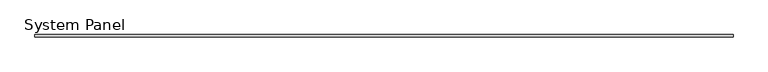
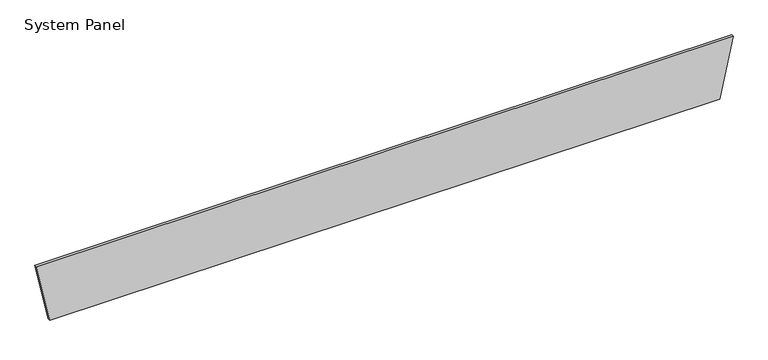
"""IFC4 building model written with IfcOpenShell, lengths in millimetres: plate geometry, System Panel : Equitilt_50mm_Plain_Surfmist."""

from ifc_helpers import new_model, si_unit, frame, origin, place, context, project, spatial, polyline, outline, extrude, source, transform, mapped, element, save


def system_panel_e1012d11(model_context):
    return source(origin(), model_context, "Body", "SweptSolid", [
        extrude(outline(polyline([(0.0, -6521.7433237), (0.0, 6521.7433237), (1200.0, 6782.6149856), (1200.0, -6782.6149856), (0.0, -6521.7433237)])), frame((0.0, -50.0, 0.0), z_axis=(0.0, 1.0, 0.0), x_axis=(0.0, 0.0, 1.0)), (0.0, 0.0, 1.0), 50.0),
    ])


if __name__ == "__main__":
    model = new_model("IFC4")
    model_context = context("Model", 3, world=origin())
    ifc_project = project(units=[si_unit("LENGTHUNIT", "METRE", prefix="MILLI")], contexts=[model_context])
    site = spatial("IfcSite", under=ifc_project)
    building = spatial("IfcBuilding", under=site)
    placement = place(None, origin())
    system_panel_shape = system_panel_e1012d11(model_context)
    element("IfcPlate", 1, ObjectType="System Panel : Equitilt_50mm_Plain_Surfmist", at=placement, inside=building, context=model_context, shape_type="MappedRepresentation", body=[
        mapped(system_panel_shape, transform((0.0, 0.0, 0.0), x_axis=(1.0, 0.0, 0.0), y_axis=(0.0, 1.0, 0.0), z_axis=(0.0, 0.0, 1.0))),
    ])
    save(model, "model.ifc")
